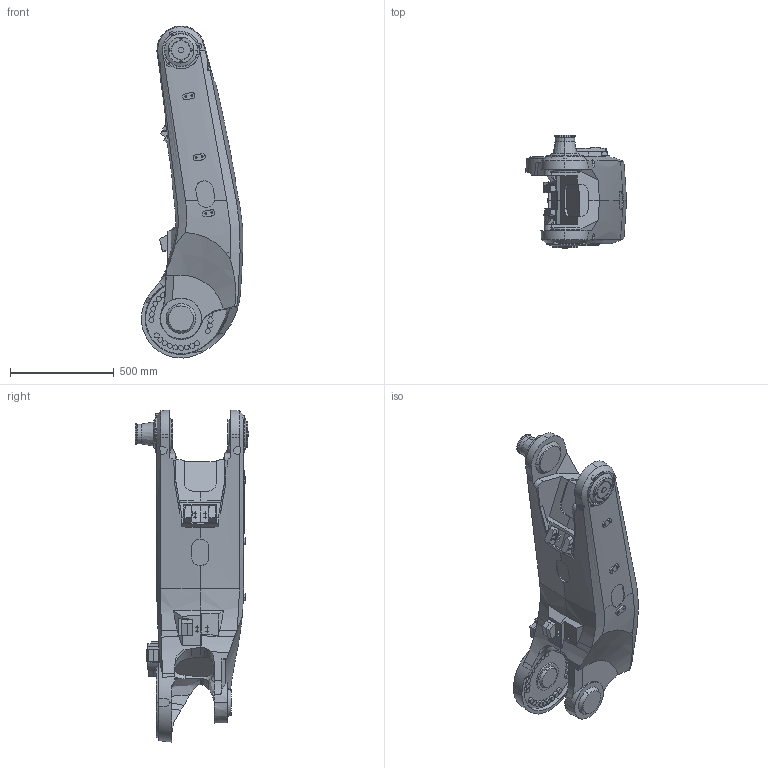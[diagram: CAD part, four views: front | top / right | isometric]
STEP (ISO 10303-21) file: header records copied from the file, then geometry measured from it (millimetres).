
FILE_DESCRIPTION (( 'STEP AP214' ), '1' );
FILE_NAME ('IRB7710_360kg-330_OC_00_LINK2_CAD.STEP', '2023-09-26T08:26:52', ( '' ), ( '' ), 'SwSTEP 2.0', 'SolidWorks 2022', '' );
FILE_SCHEMA (( 'AUTOMOTIVE_DESIGN' ));
Length unit declared in the file: millimetre
Products named in the file (1): IRB7710_360kg-330_OC_00_LINK2_CAD
Bounding box: 488.17 x 546 x 1601.59 mm (x, y, z)
Volume: 134586308.1 mm3; surface area: 2622229.6 mm2
Topology: 1 solids, 1 shells, 798 faces, 2003 edges, 1276 vertices
Faces by surface type: plane 370, cylinder 184, cone 147, bspline 65, torus 32
Entity records: 33533 total; most frequent: CARTESIAN_POINT 15362, ORIENTED_EDGE 3978, DIRECTION 3395, EDGE_CURVE 1989, VERTEX_POINT 1276, AXIS2_PLACEMENT_3D 1241, VECTOR 913, LINE 913
